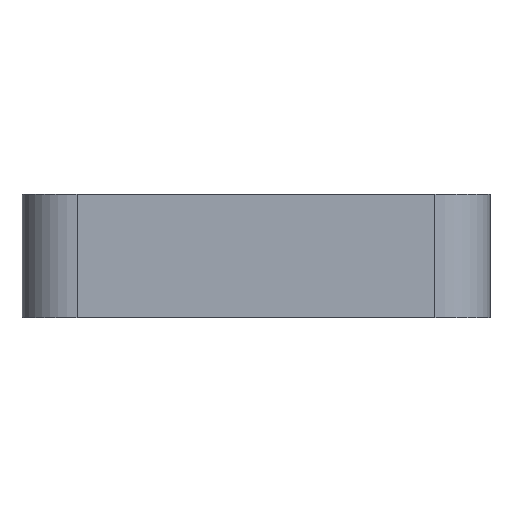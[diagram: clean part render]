
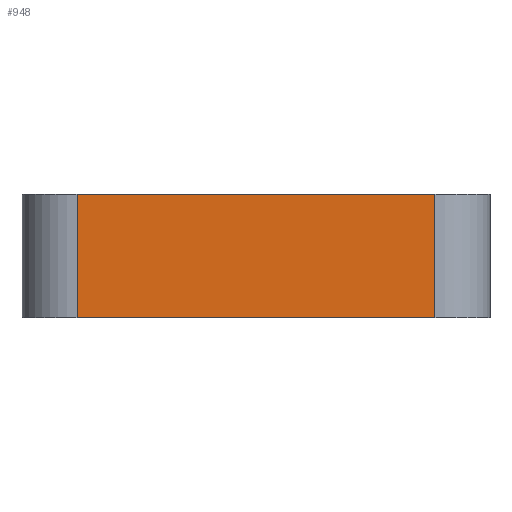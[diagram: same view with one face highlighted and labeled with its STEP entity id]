
A CAD part, left-side view. The second image highlights one B-rep face of the part: STEP entity #948.
In plain terms, the highlighted planar face has unit normal (-1, 0, 0).
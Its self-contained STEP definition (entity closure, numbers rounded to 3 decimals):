
#44 = PLANE('',#45);
#45 = AXIS2_PLACEMENT_3D('',#46,#47,#48);
#46 = CARTESIAN_POINT('',(24.,110.2,18.35));
#47 = DIRECTION('',(0.,0.,1.));
#48 = DIRECTION('',(1.,0.,-0.));
#72 = CYLINDRICAL_SURFACE('',#73,2.);
#73 = AXIS2_PLACEMENT_3D('',#74,#75,#76);
#74 = CARTESIAN_POINT('',(9.,103.7,18.35));
#75 = DIRECTION('',(0.,0.,1.));
#76 = DIRECTION('',(0.,-1.,0.));
#100 = PLANE('',#101);
#101 = AXIS2_PLACEMENT_3D('',#102,#103,#104);
#102 = CARTESIAN_POINT('',(24.,110.2,22.85));
#103 = DIRECTION('',(0.,0.,1.));
#104 = DIRECTION('',(1.,0.,-0.));
#252 = VERTEX_POINT('',#253);
#253 = CARTESIAN_POINT('',(7.,116.7,18.35));
#268 = CYLINDRICAL_SURFACE('',#269,2.);
#269 = AXIS2_PLACEMENT_3D('',#270,#271,#272);
#270 = CARTESIAN_POINT('',(9.,116.7,18.35));
#271 = DIRECTION('',(0.,0.,1.));
#272 = DIRECTION('',(-0.,1.,0.));
#280 = EDGE_CURVE('',#252,#281,#283,.T.);
#281 = VERTEX_POINT('',#282);
#282 = CARTESIAN_POINT('',(7.,103.7,18.35));
#283 = SURFACE_CURVE('',#284,(#288,#295),.PCURVE_S1.);
#284 = LINE('',#285,#286);
#285 = CARTESIAN_POINT('',(7.,118.7,18.35));
#286 = VECTOR('',#287,1.);
#287 = DIRECTION('',(0.,-1.,0.));
#288 = PCURVE('',#44,#289);
#289 = DEFINITIONAL_REPRESENTATION('',(#290),#294);
#290 = LINE('',#291,#292);
#291 = CARTESIAN_POINT('',(-17.,8.5));
#292 = VECTOR('',#293,1.);
#293 = DIRECTION('',(0.,-1.));
#294 = ( GEOMETRIC_REPRESENTATION_CONTEXT(2) 
PARAMETRIC_REPRESENTATION_CONTEXT() REPRESENTATION_CONTEXT('2D SPACE',''
  ) );
#295 = PCURVE('',#296,#301);
#296 = PLANE('',#297);
#297 = AXIS2_PLACEMENT_3D('',#298,#299,#300);
#298 = CARTESIAN_POINT('',(7.,118.7,18.35));
#299 = DIRECTION('',(1.,0.,-0.));
#300 = DIRECTION('',(0.,-1.,0.));
#301 = DEFINITIONAL_REPRESENTATION('',(#302),#306);
#302 = LINE('',#303,#304);
#303 = CARTESIAN_POINT('',(0.,0.));
#304 = VECTOR('',#305,1.);
#305 = DIRECTION('',(1.,0.));
#306 = ( GEOMETRIC_REPRESENTATION_CONTEXT(2) 
PARAMETRIC_REPRESENTATION_CONTEXT() REPRESENTATION_CONTEXT('2D SPACE',''
  ) );
#548 = EDGE_CURVE('',#281,#549,#551,.T.);
#549 = VERTEX_POINT('',#550);
#550 = CARTESIAN_POINT('',(7.,103.7,22.85));
#551 = SURFACE_CURVE('',#552,(#556,#563),.PCURVE_S1.);
#552 = LINE('',#553,#554);
#553 = CARTESIAN_POINT('',(7.,103.7,18.35));
#554 = VECTOR('',#555,1.);
#555 = DIRECTION('',(0.,0.,1.));
#556 = PCURVE('',#72,#557);
#557 = DEFINITIONAL_REPRESENTATION('',(#558),#562);
#558 = LINE('',#559,#560);
#559 = CARTESIAN_POINT('',(-1.571,0.));
#560 = VECTOR('',#561,1.);
#561 = DIRECTION('',(-0.,1.));
#562 = ( GEOMETRIC_REPRESENTATION_CONTEXT(2) 
PARAMETRIC_REPRESENTATION_CONTEXT() REPRESENTATION_CONTEXT('2D SPACE',''
  ) );
#563 = PCURVE('',#296,#564);
#564 = DEFINITIONAL_REPRESENTATION('',(#565),#569);
#565 = LINE('',#566,#567);
#566 = CARTESIAN_POINT('',(15.,0.));
#567 = VECTOR('',#568,1.);
#568 = DIRECTION('',(0.,-1.));
#569 = ( GEOMETRIC_REPRESENTATION_CONTEXT(2) 
PARAMETRIC_REPRESENTATION_CONTEXT() REPRESENTATION_CONTEXT('2D SPACE',''
  ) );
#724 = VERTEX_POINT('',#725);
#725 = CARTESIAN_POINT('',(7.,116.7,22.85));
#747 = EDGE_CURVE('',#724,#549,#748,.T.);
#748 = SURFACE_CURVE('',#749,(#753,#760),.PCURVE_S1.);
#749 = LINE('',#750,#751);
#750 = CARTESIAN_POINT('',(7.,118.7,22.85));
#751 = VECTOR('',#752,1.);
#752 = DIRECTION('',(0.,-1.,0.));
#753 = PCURVE('',#100,#754);
#754 = DEFINITIONAL_REPRESENTATION('',(#755),#759);
#755 = LINE('',#756,#757);
#756 = CARTESIAN_POINT('',(-17.,8.5));
#757 = VECTOR('',#758,1.);
#758 = DIRECTION('',(0.,-1.));
#759 = ( GEOMETRIC_REPRESENTATION_CONTEXT(2) 
PARAMETRIC_REPRESENTATION_CONTEXT() REPRESENTATION_CONTEXT('2D SPACE',''
  ) );
#760 = PCURVE('',#296,#761);
#761 = DEFINITIONAL_REPRESENTATION('',(#762),#766);
#762 = LINE('',#763,#764);
#763 = CARTESIAN_POINT('',(0.,-4.5));
#764 = VECTOR('',#765,1.);
#765 = DIRECTION('',(1.,0.));
#766 = ( GEOMETRIC_REPRESENTATION_CONTEXT(2) 
PARAMETRIC_REPRESENTATION_CONTEXT() REPRESENTATION_CONTEXT('2D SPACE',''
  ) );
#948 = ADVANCED_FACE('',(#949),#296,.F.);
#949 = FACE_BOUND('',#950,.F.);
#950 = EDGE_LOOP('',(#951,#952,#973,#974));
#951 = ORIENTED_EDGE('',*,*,#280,.F.);
#952 = ORIENTED_EDGE('',*,*,#953,.T.);
#953 = EDGE_CURVE('',#252,#724,#954,.T.);
#954 = SURFACE_CURVE('',#955,(#959,#966),.PCURVE_S1.);
#955 = LINE('',#956,#957);
#956 = CARTESIAN_POINT('',(7.,116.7,18.35));
#957 = VECTOR('',#958,1.);
#958 = DIRECTION('',(0.,0.,1.));
#959 = PCURVE('',#296,#960);
#960 = DEFINITIONAL_REPRESENTATION('',(#961),#965);
#961 = LINE('',#962,#963);
#962 = CARTESIAN_POINT('',(2.,0.));
#963 = VECTOR('',#964,1.);
#964 = DIRECTION('',(0.,-1.));
#965 = ( GEOMETRIC_REPRESENTATION_CONTEXT(2) 
PARAMETRIC_REPRESENTATION_CONTEXT() REPRESENTATION_CONTEXT('2D SPACE',''
  ) );
#966 = PCURVE('',#268,#967);
#967 = DEFINITIONAL_REPRESENTATION('',(#968),#972);
#968 = LINE('',#969,#970);
#969 = CARTESIAN_POINT('',(1.571,0.));
#970 = VECTOR('',#971,1.);
#971 = DIRECTION('',(0.,1.));
#972 = ( GEOMETRIC_REPRESENTATION_CONTEXT(2) 
PARAMETRIC_REPRESENTATION_CONTEXT() REPRESENTATION_CONTEXT('2D SPACE',''
  ) );
#973 = ORIENTED_EDGE('',*,*,#747,.T.);
#974 = ORIENTED_EDGE('',*,*,#548,.F.);
